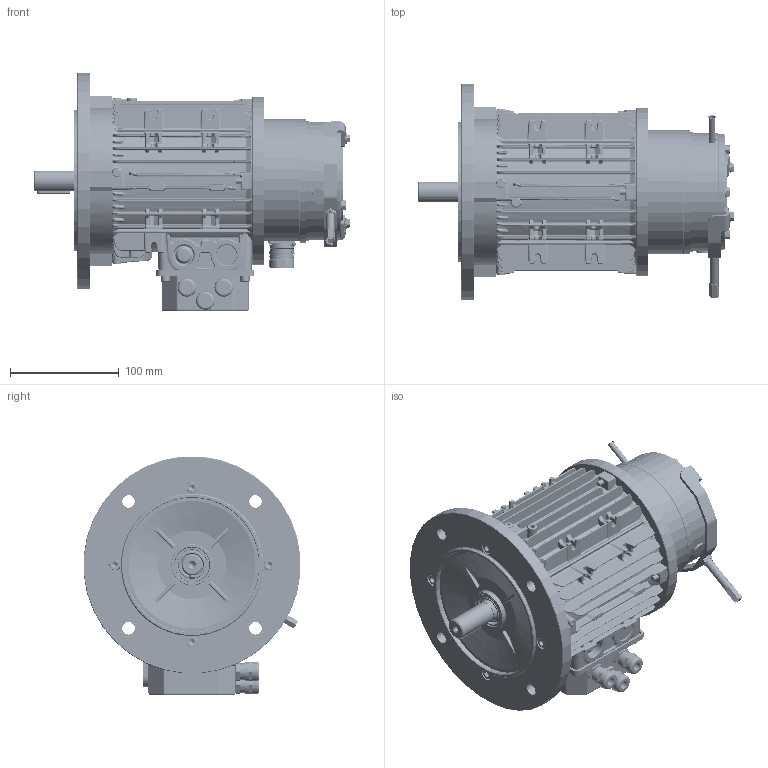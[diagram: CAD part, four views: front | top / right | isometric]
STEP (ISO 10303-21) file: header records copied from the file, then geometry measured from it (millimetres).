
FILE_DESCRIPTION(/* description */ (''),/* implementation_level */ '2;1');
FILE_NAME(/* name */ 'Z:\UTM\Sito\PMAC\BL-B5.80-P10.stp',/* time_stamp */ '2023-05-08T08:28:08+02:00',/* author */ ('cad3'),/* organization */ (''),/* preprocessor_version */ 'ST-DEVELOPER v18.1',/* originating_system */ 'Autodesk Inventor 2022',/* authorisation */ '');
FILE_SCHEMA (('AUTOMOTIVE_DESIGN { 1 0 10303 214 3 1 1 }'));
Products named in the file (1): BL-B5.80-P10
Bounding box: 290.7 x 199.24 x 219.72 mm (x, y, z)
Volume: 1195085.6 mm3; surface area: 565307.2 mm2
Topology: 3 solids, 27 shells, 8454 faces, 20770 edges, 12300 vertices
Faces by surface type: plane 2735, cylinder 2343, bspline 2280, torus 407, cone 362, sphere 327
Full cylindrical faces by diameter (mm): 0.9 x12, 2 x8, 2.9 x8, 3 x4, 3.2 x8, 3.242 x3, 3.3 x1, 4 x4, 4.134 x3, 4.2 x1, 4.3 x6, 4.5 x2, 4.917 x1, 5 x35, 5.2 x21, 5.3 x4, 5.5 x13, 6 x2, 6.88 x3, 6.917 x3, 7 x4, 7.1 x1, 7.8 x1, 8 x5, 8.4 x1, 8.5 x12, 9 x16, 10 x9, 11 x4, 11.5 x4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
Entity records: 344000 total; most frequent: CARTESIAN_POINT 145476, ORIENTED_EDGE 41060, DIRECTION 39311, EDGE_CURVE 20530, AXIS2_PLACEMENT_3D 15791, VERTEX_POINT 12299, EDGE_LOOP 8979, STYLED_ITEM 8457
